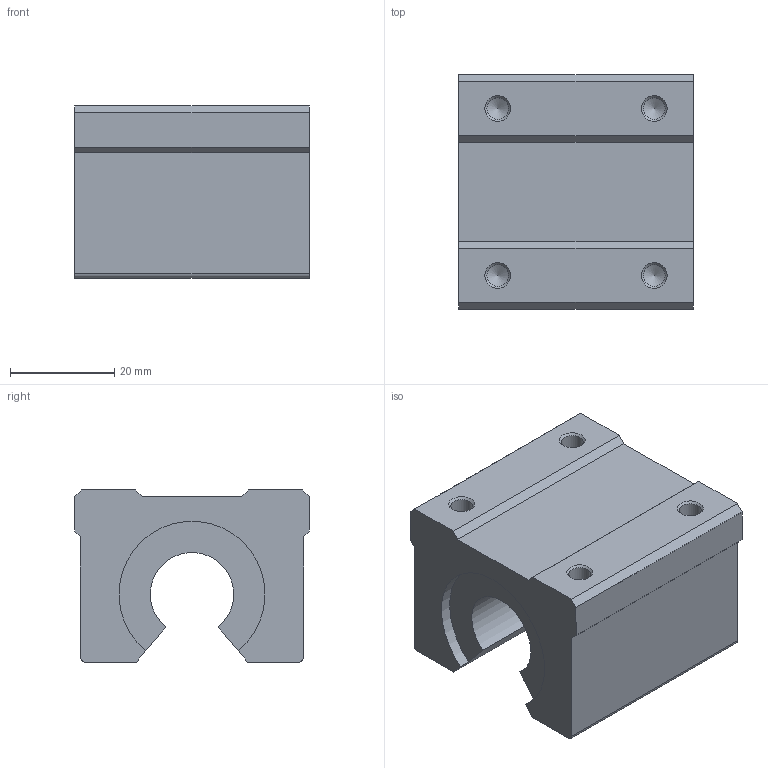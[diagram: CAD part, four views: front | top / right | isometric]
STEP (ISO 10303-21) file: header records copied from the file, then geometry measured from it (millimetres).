
FILE_DESCRIPTION( ( 'Unknown' ), '1' );
FILE_NAME( 'D:/累诀/己绕皋墨飘肺葱胶/11-04-06_档搁累己/01_府聪绢何教/SSBR/SBR16SA.stp', 'Unknown', ( 'Unknown' ), ( 'Unknown' ), 'PSStep 11.0', 'Unknown', ' ' );
FILE_SCHEMA( ( 'AUTOMOTIVE_DESIGN { 1 0 10303 214 1 1 1 1 }' ) );
Length unit declared in the file: millimetre
Products named in the file (1): SBR__
Bounding box: 45 x 45 x 33 mm (x, y, z)
Volume: 47499.2 mm3; surface area: 11555.5 mm2
Topology: 1 solids, 1 shells, 42 faces, 112 edges, 72 vertices
Faces by surface type: plane 21, cylinder 13, cone 8
Full cylindrical faces by diameter (mm): 4.134 x8
Entity records: 1514 total; most frequent: DIRECTION 200, CARTESIAN_POINT 199, ORIENTED_EDGE 176, EDGE_CURVE 88, AXIS2_PLACEMENT_3D 69, VERTEX_POINT 68, LINE 62, VECTOR 62
